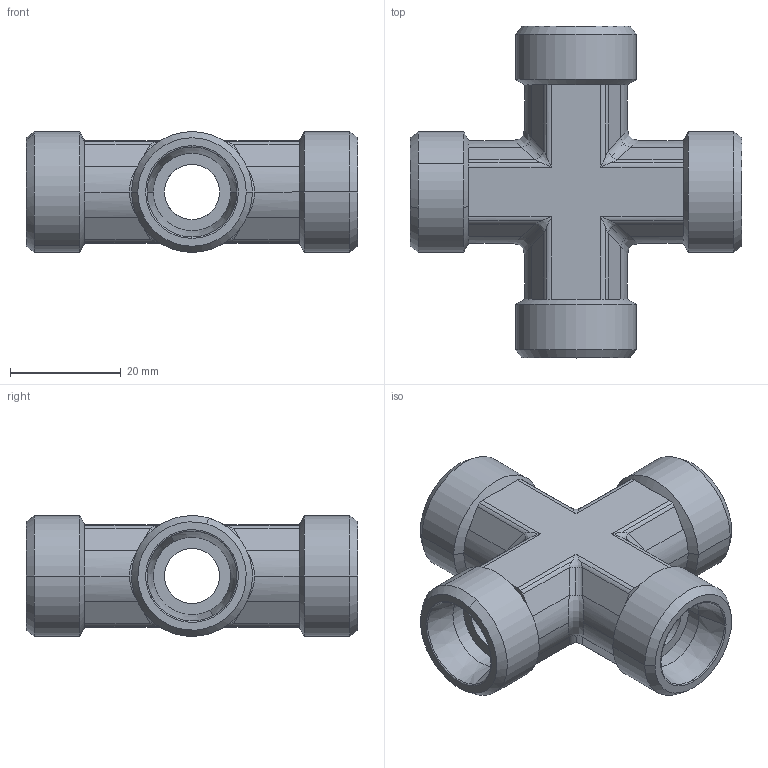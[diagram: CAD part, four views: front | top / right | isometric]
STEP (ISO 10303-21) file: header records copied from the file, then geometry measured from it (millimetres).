
FILE_DESCRIPTION((''),'2;1');
FILE_NAME('104018.stp','2007-10-31T13:14:23',(''),(''),'AutoCAD STEP 2000i','AutoCAD 2000i',', , ');
FILE_SCHEMA(('CONFIG_CONTROL_DESIGN'));
Length unit declared in the file: millimetre
Products named in the file (2): 104018.0; 3093#0
Assembly tree (1 placements, depth 2):
  104018.0
    3093#0
Bounding box: 60 x 60 x 21.85 mm (x, y, z)
Volume: 21558 mm3; surface area: 11085.6 mm2
Topology: 1 solids, 1 shells, 174 faces, 428 edges, 250 vertices
Faces by surface type: cylinder 88, plane 42, cone 24, bspline 20
Entity records: 6669 total; most frequent: CARTESIAN_POINT 2374, DIRECTION 976, ORIENTED_EDGE 840, EDGE_CURVE 420, AXIS2_PLACEMENT_3D 400, VERTEX_POINT 250, CIRCLE 186, EDGE_LOOP 182
